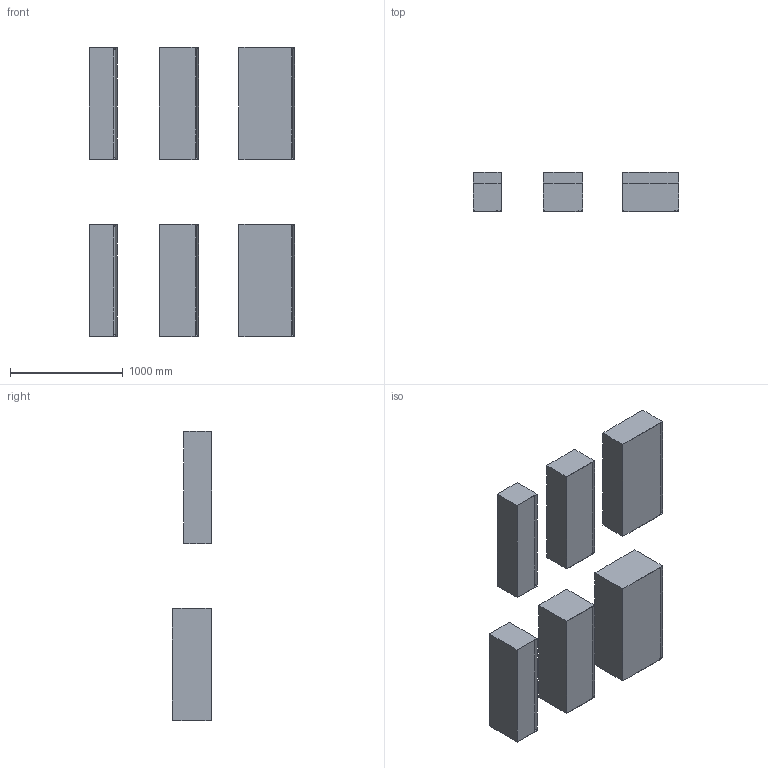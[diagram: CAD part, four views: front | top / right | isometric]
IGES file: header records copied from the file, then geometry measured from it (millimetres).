
Global section: file name: \\Archi-NAS\Comune\X GIOVANNI\MOBILI\EVOLINE\EVOLINE_TOTEM h1000.igs; native system: Rhinoceros ( Feb 23 2021 ); preprocessor: Trout Lake IGES 012 Feb 23 2021; date: 230607.150753; units: millimetre
Bounding box: 1825.35 x 350 x 2568.92 mm (x, y, z)
Surface area: 21642483.1 mm2 (no closed solid volume)
Topology: 0 solids, 0 shells, 336 faces, 4884 edges, 4884 vertices
Faces by surface type: bspline 336
